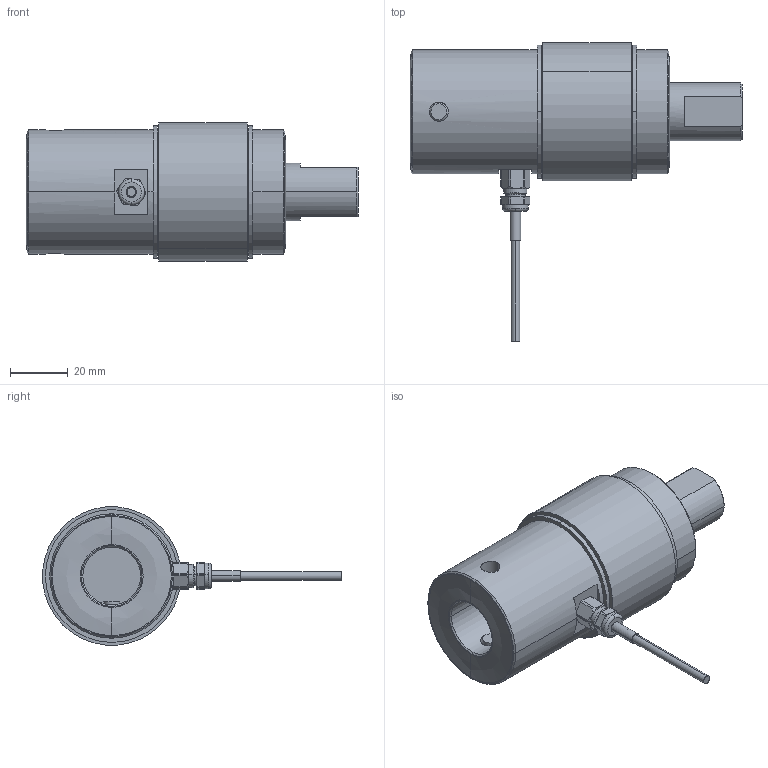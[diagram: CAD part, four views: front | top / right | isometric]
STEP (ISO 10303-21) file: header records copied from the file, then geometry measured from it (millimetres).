
FILE_DESCRIPTION(('STEP AP203'),'1');
FILE_NAME('C:/TPO v2/SharedFS/Outgoing/burster_8451-6100_db7pt8ox4ihl0k9qbd6982ayi.stp','2013-08-27T17:33:39',('TraceParts'),('TraceParts S.A.'),'XStep 1.0',' ',' ');
FILE_SCHEMA(('CONFIG_CONTROL_DESIGN'));
Length unit declared in the file: millimetre
Products named in the file (2): 1; 2
Bounding box: 115 x 103.41 x 47.83 mm (x, y, z)
Volume: 141699.4 mm3; surface area: 29975.6 mm2
Topology: 2 solids, 2 shells, 153 faces, 368 edges, 236 vertices
Faces by surface type: cylinder 58, plane 47, cone 40, bspline 4, torus 4
Entity records: 4749 total; most frequent: CARTESIAN_POINT 1081, DIRECTION 797, ORIENTED_EDGE 732, EDGE_CURVE 366, AXIS2_PLACEMENT_3D 332, VERTEX_POINT 236, CIRCLE 181, EDGE_LOOP 176
